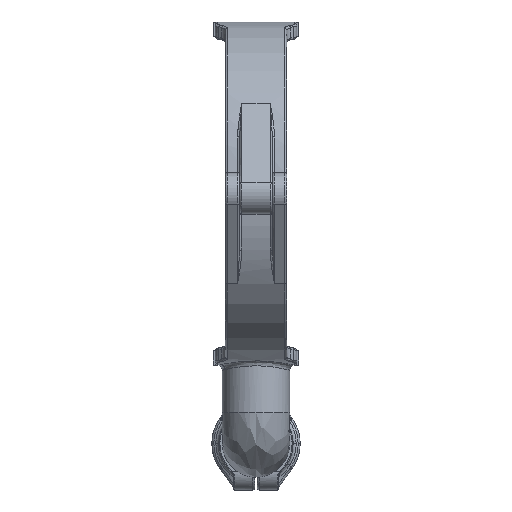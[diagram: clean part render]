
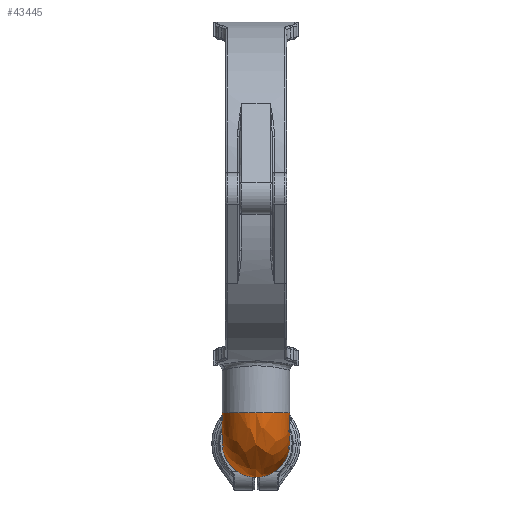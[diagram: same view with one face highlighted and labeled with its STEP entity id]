
A CAD part, front view. The second image highlights one B-rep face of the part: STEP entity #43445.
In plain terms, the highlighted free-form (B-spline) face has degree [3, 3] with [4, 7] control points.
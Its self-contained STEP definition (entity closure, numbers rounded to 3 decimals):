
#29961=CARTESIAN_POINT('',(11.963,11.648,
-169.415));
#29973=CARTESIAN_POINT('',(0.001,0.,
-169.416));
#29974=DIRECTION('',(0.,0.,1.));
#29975=DIRECTION('',(-1.,0.,0.));
#29976=AXIS2_PLACEMENT_3D('',#29973,#29974,#29975);
#29981=CARTESIAN_POINT('',(0.001,0.,
-169.416));
#29982=DIRECTION('',(0.,0.,1.));
#29983=DIRECTION('',(1.,0.,0.));
#29984=AXIS2_PLACEMENT_3D('',#29981,#29982,#29983);
#29989=CARTESIAN_POINT('',(11.963,11.648,
-169.415));
#29990=CARTESIAN_POINT('',(11.882,11.731,
-169.786));
#29991=CARTESIAN_POINT('',(11.754,11.979,
-170.478));
#29992=CARTESIAN_POINT('',(11.661,12.519,
-171.343));
#29993=CARTESIAN_POINT('',(11.663,13.285,
-172.1));
#29994=CARTESIAN_POINT('',(11.757,14.138,
-172.624));
#29995=CARTESIAN_POINT('',(11.884,14.816,
-172.865));
#29996=CARTESIAN_POINT('',(11.963,15.178,
-172.946));
#30001=CARTESIAN_POINT('',(0.001,15.178,
-184.594));
#30002=DIRECTION('',(0.,1.,0.));
#30003=DIRECTION('',(0.716,0.,0.698));
#30004=AXIS2_PLACEMENT_3D('',#30001,#30002,#30003);
#30009=CARTESIAN_POINT('',(0.001,15.178,
-184.594));
#30010=DIRECTION('',(0.,1.,0.));
#30011=DIRECTION('',(1.,0.,0.));
#30012=AXIS2_PLACEMENT_3D('',#30009,#30010,#30011);
#30017=CARTESIAN_POINT('',(0.001,15.178,
-184.594));
#30018=DIRECTION('',(0.,1.,0.));
#30019=DIRECTION('',(-1.,0.,0.));
#30020=AXIS2_PLACEMENT_3D('',#30017,#30018,#30019);
#30025=CARTESIAN_POINT('',(-11.961,15.178,
-172.946));
#30026=CARTESIAN_POINT('',(-11.88,14.808,
-172.862));
#30027=CARTESIAN_POINT('',(-11.752,14.116,
-172.615));
#30028=CARTESIAN_POINT('',(-11.659,13.251,
-172.074));
#30029=CARTESIAN_POINT('',(-11.661,12.493,
-171.309));
#30030=CARTESIAN_POINT('',(-11.756,11.97,
-170.456));
#30031=CARTESIAN_POINT('',(-11.882,11.729,
-169.777));
#30032=CARTESIAN_POINT('',(-11.961,11.648,
-169.415));
#30037=CARTESIAN_POINT('',(0.001,0.,
-169.416));
#30038=DIRECTION('',(0.,0.,1.));
#30039=DIRECTION('',(-0.716,0.698,0.));
#30040=AXIS2_PLACEMENT_3D('',#30037,#30038,#30039);
#37462=CARTESIAN_POINT('',(16.697,0.,
-169.416));
#37463=VERTEX_POINT('',#37462);
#37464=CARTESIAN_POINT('',(-16.695,0.,
-169.416));
#37465=VERTEX_POINT('',#37464);
#37466=CARTESIAN_POINT('',(-11.961,11.648,
-169.415));
#37467=VERTEX_POINT('',#37466);
#37470=VERTEX_POINT('',#29961);
#37471=VERTEX_POINT('',#29996);
#37472=CARTESIAN_POINT('',(16.697,15.178,
-184.594));
#37473=VERTEX_POINT('',#37472);
#37474=CARTESIAN_POINT('',(-16.695,15.178,
-184.594));
#37475=VERTEX_POINT('',#37474);
#37476=CARTESIAN_POINT('',(-11.961,15.178,
-172.945));
#37477=VERTEX_POINT('',#37476);
#43401=CARTESIAN_POINT('',(10.48,15.387,
-171.585));
#43402=CARTESIAN_POINT('',(25.199,16.52,
-183.397));
#43403=CARTESIAN_POINT('',(18.907,18.223,
-201.145));
#43404=CARTESIAN_POINT('',(0.001,18.223,
-201.145));
#43405=CARTESIAN_POINT('',(-18.905,18.223,
-201.145));
#43406=CARTESIAN_POINT('',(-25.197,16.52,
-183.397));
#43407=CARTESIAN_POINT('',(-10.478,15.387,
-171.585));
#43408=CARTESIAN_POINT('',(10.48,13.914,
-171.727));
#43409=CARTESIAN_POINT('',(25.199,7.028,
-184.308));
#43410=CARTESIAN_POINT('',(18.907,-3.317,
-203.211));
#43411=CARTESIAN_POINT('',(0.001,-3.317,
-203.211));
#43412=CARTESIAN_POINT('',(-18.905,-3.317,
-203.211));
#43413=CARTESIAN_POINT('',(-25.197,7.028,
-184.308));
#43414=CARTESIAN_POINT('',(-10.478,13.914,
-171.727));
#43415=CARTESIAN_POINT('',(10.48,12.867,
-170.68));
#43416=CARTESIAN_POINT('',(25.199,0.286,
-177.565));
#43417=CARTESIAN_POINT('',(18.907,-18.617,
-187.911));
#43418=CARTESIAN_POINT('',(0.001,-18.617,
-187.911));
#43419=CARTESIAN_POINT('',(-18.905,-18.617,
-187.911));
#43420=CARTESIAN_POINT('',(-25.197,0.286,
-177.565));
#43421=CARTESIAN_POINT('',(-10.478,12.867,
-170.68));
#43422=CARTESIAN_POINT('',(10.48,13.008,
-169.207));
#43423=CARTESIAN_POINT('',(25.199,1.197,
-168.074));
#43424=CARTESIAN_POINT('',(18.907,-16.551,
-166.371));
#43425=CARTESIAN_POINT('',(0.001,-16.551,
-166.371));
#43426=CARTESIAN_POINT('',(-18.905,-16.551,
-166.371));
#43427=CARTESIAN_POINT('',(-25.197,1.197,
-168.074));
#43428=CARTESIAN_POINT('',(-10.478,13.008,
-169.207));
#43429=(BOUNDED_SURFACE()B_SPLINE_SURFACE(3,3,((#43401,#43402,#43403,#43404,
#43405,#43406,#43407),(#43408,#43409,#43410,#43411,#43412,#43413,#43414),
(#43415,#43416,#43417,#43418,#43419,#43420,#43421),(#43422,#43423,#43424,#43425,
#43426,#43427,#43428)),.UNSPECIFIED.,.F.,.F.,.F.)B_SPLINE_SURFACE_WITH_KNOTS((4,
4),(4,3,4),(0.,1.),(0.,1.,2.),.UNSPECIFIED.)GEOMETRIC_REPRESENTATION_ITEM()RATIONAL_B_SPLINE_SURFACE(((1.834,1.018,
1.018,1.834,1.018,1.018,
1.834),(1.389,0.771,0.771,
1.389,0.771,0.771,1.389),(
1.389,0.771,0.771,1.389,
0.771,0.771,1.389),(1.834,
1.018,1.018,1.834,1.018,
1.018,1.834)))REPRESENTATION_ITEM('')SURFACE());
#43430=ORIENTED_EDGE('',*,*,#43369,.T.);
#43431=ORIENTED_EDGE('',*,*,#43395,.T.);
#43433=ORIENTED_EDGE('',*,*,#43432,.T.);
#43435=ORIENTED_EDGE('',*,*,#43434,.T.);
#43437=ORIENTED_EDGE('',*,*,#43436,.T.);
#43439=ORIENTED_EDGE('',*,*,#43438,.T.);
#43441=ORIENTED_EDGE('',*,*,#43440,.T.);
#43442=ORIENTED_EDGE('',*,*,#43387,.T.);
#43443=EDGE_LOOP('',(#43430,#43431,#43433,#43435,#43437,#43439,#43441,#43442));
#43444=FACE_OUTER_BOUND('',#43443,.F.);
#29977=CIRCLE('',#29976,16.696);
#29985=CIRCLE('',#29984,16.696);
#29997=B_SPLINE_CURVE_WITH_KNOTS('',3,(#29989,#29990,#29991,#29992,#29993,
#29994,#29995,#29996),.UNSPECIFIED.,.F.,.F.,(4,1,1,1,1,4),(0.,0.2,0.4,
0.6,0.8,1.),.UNSPECIFIED.);
#30005=CIRCLE('',#30004,16.696);
#30013=CIRCLE('',#30012,16.696);
#30021=CIRCLE('',#30020,16.696);
#30033=B_SPLINE_CURVE_WITH_KNOTS('',3,(#30025,#30026,#30027,#30028,#30029,
#30030,#30031,#30032),.UNSPECIFIED.,.F.,.F.,(4,1,1,1,1,4),(0.,0.2,0.4,
0.6,0.8,1.),.UNSPECIFIED.);
#30041=CIRCLE('',#30040,16.696);
#43369=EDGE_CURVE('',#37465,#37463,#29977,.T.);
#43387=EDGE_CURVE('',#37467,#37465,#30041,.T.);
#43395=EDGE_CURVE('',#37463,#37470,#29985,.T.);
#43432=EDGE_CURVE('',#37470,#37471,#29997,.T.);
#43434=EDGE_CURVE('',#37471,#37473,#30005,.T.);
#43436=EDGE_CURVE('',#37473,#37475,#30013,.T.);
#43438=EDGE_CURVE('',#37475,#37477,#30021,.T.);
#43440=EDGE_CURVE('',#37477,#37467,#30033,.T.);
#43445=ADVANCED_FACE('',(#43444),#43429,.T.);
